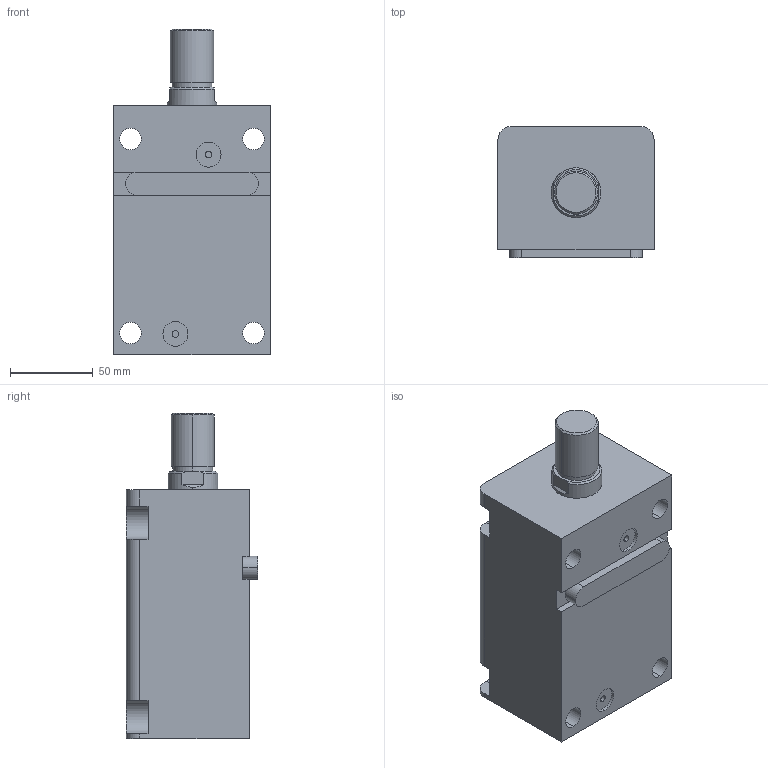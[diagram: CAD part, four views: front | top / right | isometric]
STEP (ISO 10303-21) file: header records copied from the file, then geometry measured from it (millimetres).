
FILE_DESCRIPTION (( 'STEP AP203' ), '1' );
FILE_NAME ('HTB-LAM50-90W.STEP', '2023-03-20T01:13:25', ( '微软用户' ), ( '微软中国' ), 'SwSTEP 2.0', 'SolidWorks 2012', '' );
FILE_SCHEMA (( 'CONFIG_CONTROL_DESIGN' ));
Length unit declared in the file: millimetre
Products named in the file (4): HTB-LAM50-90W; HTB-LWM50-瑩; HTB-LAM50-90W活塞杆; HTB-LAM50-90掛极
Assembly tree (3 placements, depth 2):
  HTB-LAM50-90W
    HTB-LAM50-90掛极
    HTB-LAM50-90W活塞杆
    HTB-LWM50-瑩
Bounding box: 94 x 79 x 196 mm (x, y, z)
Volume: 905477.4 mm3; surface area: 123609.3 mm2
Topology: 3 solids, 3 shells, 90 faces, 219 edges, 144 vertices
Faces by surface type: cylinder 41, plane 41, cone 4, torus 4
Entity records: 3107 total; most frequent: DIRECTION 497, CARTESIAN_POINT 487, ORIENTED_EDGE 438, EDGE_CURVE 219, AXIS2_PLACEMENT_3D 190, VERTEX_POINT 144, LINE 117, VECTOR 117
